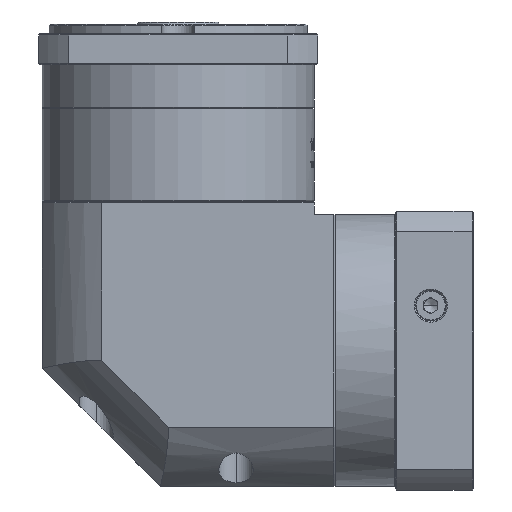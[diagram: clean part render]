
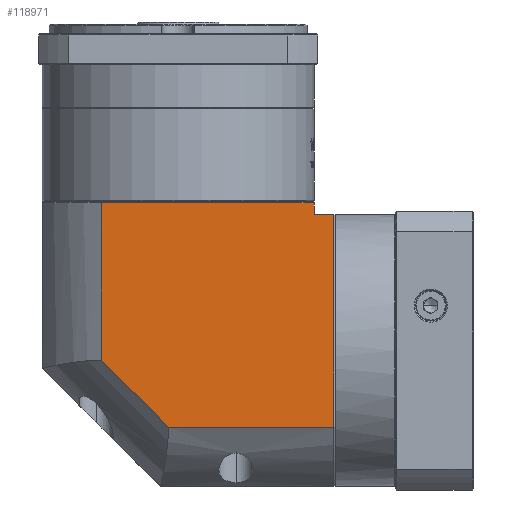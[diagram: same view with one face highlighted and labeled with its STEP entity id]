
A CAD part, left-side view. The second image highlights one B-rep face of the part: STEP entity #118971.
In plain terms, the highlighted planar face has unit normal (-1, 0, 0).
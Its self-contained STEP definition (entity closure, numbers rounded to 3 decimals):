
#1470 = VECTOR ( 'NONE', #7302, 1000. ) ;
#6088 = CARTESIAN_POINT ( 'NONE',  ( 117.82, 89.751, 50.351 ) ) ;
#7074 = VERTEX_POINT ( 'NONE', #129268 ) ;
#7302 = DIRECTION ( 'NONE',  ( 0., 0., -1. ) ) ;
#14015 = DIRECTION ( 'NONE',  ( 0., 0., 1. ) ) ;
#22780 = VERTEX_POINT ( 'NONE', #97216 ) ;
#31050 = CARTESIAN_POINT ( 'NONE',  ( 117.82, 118.089, 145.251 ) ) ;
#32355 = VERTEX_POINT ( 'NONE', #70751 ) ;
#36670 = CARTESIAN_POINT ( 'NONE',  ( 117.82, 28.19, 140.251 ) ) ;
#39904 = ORIENTED_EDGE ( 'NONE', *, *, #116253, .F. ) ;
#41059 = EDGE_CURVE ( 'NONE', #32355, #22780, #140410, .T. ) ;
#42317 = ORIENTED_EDGE ( 'NONE', *, *, #60276, .T. ) ;
#47446 = VECTOR ( 'NONE', #140440, 1000. ) ;
#55322 = VECTOR ( 'NONE', #62468, 1000. ) ;
#60162 = DIRECTION ( 'NONE',  ( 0., -1., 0. ) ) ;
#60276 = EDGE_CURVE ( 'NONE', #82180, #7074, #81650, .T. ) ;
#61874 = CARTESIAN_POINT ( 'NONE',  ( 117.82, 28.19, 140.251 ) ) ;
#62468 = DIRECTION ( 'NONE',  ( 0., 1., 0. ) ) ;
#62767 = CARTESIAN_POINT ( 'NONE',  ( 117.82, 89.751, 50.351 ) ) ;
#66210 = VERTEX_POINT ( 'NONE', #144439 ) ;
#70328 = EDGE_CURVE ( 'NONE', #104241, #66210, #77039, .T. ) ;
#70628 = VECTOR ( 'NONE', #60162, 1000. ) ;
#70751 = CARTESIAN_POINT ( 'NONE',  ( 117.82, 19.79, 140.251 ) ) ;
#73266 = DIRECTION ( 'NONE',  ( 1., 0., 0. ) ) ;
#73271 = ORIENTED_EDGE ( 'NONE', *, *, #148363, .T. ) ;
#73619 = CARTESIAN_POINT ( 'NONE',  ( 117.82, 143.19, 50.351 ) ) ;
#74447 = EDGE_CURVE ( 'NONE', #66210, #102837, #129479, .T. ) ;
#77039 = LINE ( 'NONE', #62767, #138714 ) ;
#78532 = ORIENTED_EDGE ( 'NONE', *, *, #138918, .F. ) ;
#81650 = LINE ( 'NONE', #90045, #111464 ) ;
#82180 = VERTEX_POINT ( 'NONE', #61874 ) ;
#89370 = EDGE_LOOP ( 'NONE', ( #129309, #123425, #78532, #117704, #73271, #42317, #39904 ) ) ;
#90045 = CARTESIAN_POINT ( 'NONE',  ( 117.82, 28.19, 25.251 ) ) ;
#97177 = CARTESIAN_POINT ( 'NONE',  ( 117.82, 19.79, 151.751 ) ) ;
#97216 = CARTESIAN_POINT ( 'NONE',  ( 117.82, 19.79, 50.351 ) ) ;
#98920 = CARTESIAN_POINT ( 'NONE',  ( 117.82, 143.19, 151.751 ) ) ;
#101720 = DIRECTION ( 'NONE',  ( 0., 0.707, 0.707 ) ) ;
#102837 = VERTEX_POINT ( 'NONE', #31050 ) ;
#104241 = VERTEX_POINT ( 'NONE', #6088 ) ;
#111464 = VECTOR ( 'NONE', #14015, 1000. ) ;
#116253 = EDGE_CURVE ( 'NONE', #102837, #7074, #142189, .T. ) ;
#117704 = ORIENTED_EDGE ( 'NONE', *, *, #41059, .F. ) ;
#118971 = ADVANCED_FACE ( 'NONE', ( #142019 ), #135439, .F. ) ;
#122913 = LINE ( 'NONE', #73619, #55322 ) ;
#123425 = ORIENTED_EDGE ( 'NONE', *, *, #70328, .F. ) ;
#125133 = CARTESIAN_POINT ( 'NONE',  ( 117.82, 143.19, 145.251 ) ) ;
#126458 = CARTESIAN_POINT ( 'NONE',  ( 117.82, 118.089, 151.751 ) ) ;
#129268 = CARTESIAN_POINT ( 'NONE',  ( 117.82, 28.19, 145.251 ) ) ;
#129309 = ORIENTED_EDGE ( 'NONE', *, *, #74447, .F. ) ;
#129479 = LINE ( 'NONE', #126458, #149466 ) ;
#135439 = PLANE ( 'NONE',  #144229 ) ;
#138714 = VECTOR ( 'NONE', #101720, 1000. ) ;
#138774 = LINE ( 'NONE', #36670, #47446 ) ;
#138918 = EDGE_CURVE ( 'NONE', #22780, #104241, #122913, .T. ) ;
#140410 = LINE ( 'NONE', #97177, #1470 ) ;
#140440 = DIRECTION ( 'NONE',  ( 0., 1., 0. ) ) ;
#142019 = FACE_OUTER_BOUND ( 'NONE', #89370, .T. ) ;
#142189 = LINE ( 'NONE', #125133, #70628 ) ;
#144229 = AXIS2_PLACEMENT_3D ( 'NONE', #98920, #73266, #162082 ) ;
#144439 = CARTESIAN_POINT ( 'NONE',  ( 117.82, 118.089, 78.689 ) ) ;
#148363 = EDGE_CURVE ( 'NONE', #32355, #82180, #138774, .T. ) ;
#149466 = VECTOR ( 'NONE', #162542, 1000. ) ;
#162082 = DIRECTION ( 'NONE',  ( 0., 1., 0. ) ) ;
#162542 = DIRECTION ( 'NONE',  ( 0., 0., 1. ) ) ;
